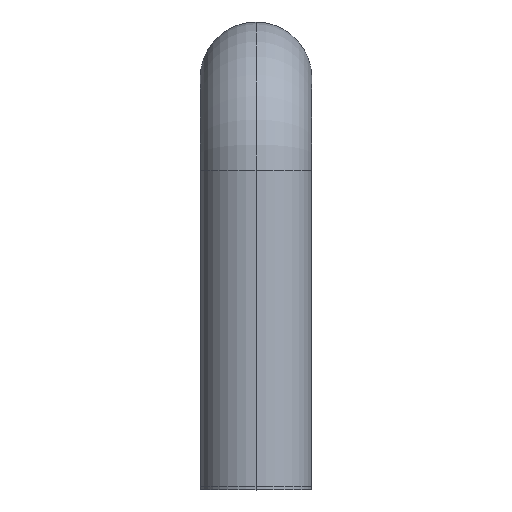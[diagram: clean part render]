
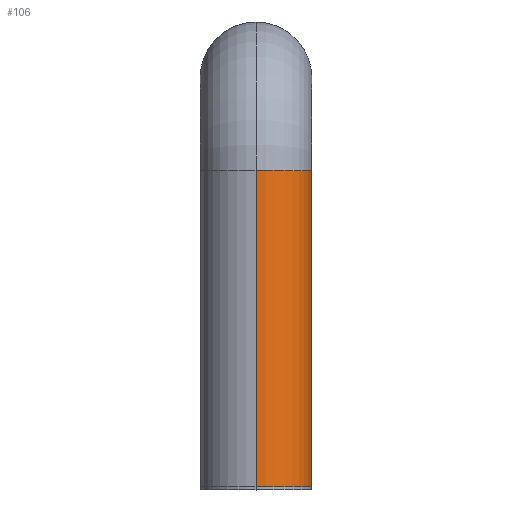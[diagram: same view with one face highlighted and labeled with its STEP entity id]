
A CAD part, top view. The second image highlights one B-rep face of the part: STEP entity #106.
In plain terms, the highlighted cylindrical face has radius 6 mm (diameter 12 mm), a partial arc.
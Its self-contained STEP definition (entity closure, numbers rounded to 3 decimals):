
#36 = DIRECTION ( 'NONE',  ( 0., 1., 0. ) ) ;
#71 = DIRECTION ( 'NONE',  ( 0., 1., 0. ) ) ;
#78 = ORIENTED_EDGE ( 'NONE', *, *, #573, .T. ) ;
#90 = LINE ( 'NONE', #127, #499 ) ;
#106 = ADVANCED_FACE ( 'NONE', ( #565 ), #292, .T. ) ;
#127 = CARTESIAN_POINT ( 'NONE',  ( 0., 0., -6. ) ) ;
#129 = AXIS2_PLACEMENT_3D ( 'NONE', #524, #184, #136 ) ;
#133 = LINE ( 'NONE', #188, #144 ) ;
#136 = DIRECTION ( 'NONE',  ( 0., 0., 1. ) ) ;
#144 = VECTOR ( 'NONE', #36, 1000. ) ;
#149 = VERTEX_POINT ( 'NONE', #283 ) ;
#184 = DIRECTION ( 'NONE',  ( 0., 1., 0. ) ) ;
#188 = CARTESIAN_POINT ( 'NONE',  ( 0., 0., 6. ) ) ;
#275 = ORIENTED_EDGE ( 'NONE', *, *, #394, .T. ) ;
#278 = AXIS2_PLACEMENT_3D ( 'NONE', #387, #381, #333 ) ;
#283 = CARTESIAN_POINT ( 'NONE',  ( 0., 34., 6. ) ) ;
#284 = DIRECTION ( 'NONE',  ( 0., 1., 0. ) ) ;
#287 = VERTEX_POINT ( 'NONE', #544 ) ;
#292 = CYLINDRICAL_SURFACE ( 'NONE', #129, 6. ) ;
#294 = CARTESIAN_POINT ( 'NONE',  ( 0., 0., -6. ) ) ;
#316 = CARTESIAN_POINT ( 'NONE',  ( 0., 0., 0. ) ) ;
#326 = VERTEX_POINT ( 'NONE', #462 ) ;
#333 = DIRECTION ( 'NONE',  ( 0., 0., 1. ) ) ;
#381 = DIRECTION ( 'NONE',  ( 0., 1., 0. ) ) ;
#387 = CARTESIAN_POINT ( 'NONE',  ( 0., 34., 0. ) ) ;
#394 = EDGE_CURVE ( 'NONE', #287, #553, #555, .T. ) ;
#411 = DIRECTION ( 'NONE',  ( 0., 0., 1. ) ) ;
#424 = ORIENTED_EDGE ( 'NONE', *, *, #521, .F. ) ;
#462 = CARTESIAN_POINT ( 'NONE',  ( 0., 34., -6. ) ) ;
#498 = AXIS2_PLACEMENT_3D ( 'NONE', #316, #71, #411 ) ;
#499 = VECTOR ( 'NONE', #284, 1000. ) ;
#521 = EDGE_CURVE ( 'NONE', #287, #149, #133, .T. ) ;
#524 = CARTESIAN_POINT ( 'NONE',  ( 0., 0., 0. ) ) ;
#544 = CARTESIAN_POINT ( 'NONE',  ( 0., 0., 6. ) ) ;
#553 = VERTEX_POINT ( 'NONE', #294 ) ;
#555 = CIRCLE ( 'NONE', #498, 6. ) ;
#558 = EDGE_LOOP ( 'NONE', ( #275, #78, #605, #424 ) ) ;
#559 = EDGE_CURVE ( 'NONE', #149, #326, #597, .T. ) ;
#565 = FACE_OUTER_BOUND ( 'NONE', #558, .T. ) ;
#573 = EDGE_CURVE ( 'NONE', #553, #326, #90, .T. ) ;
#597 = CIRCLE ( 'NONE', #278, 6. ) ;
#605 = ORIENTED_EDGE ( 'NONE', *, *, #559, .F. ) ;
